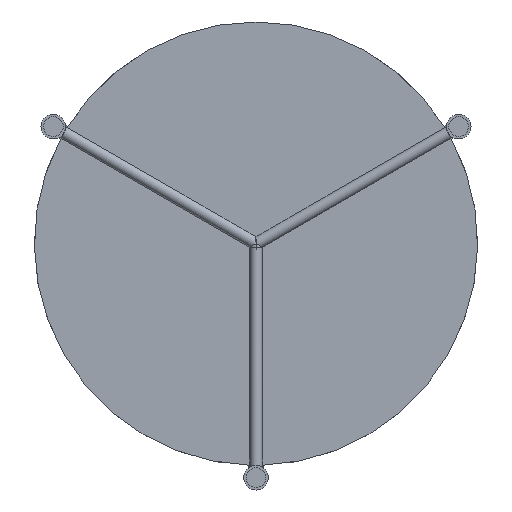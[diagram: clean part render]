
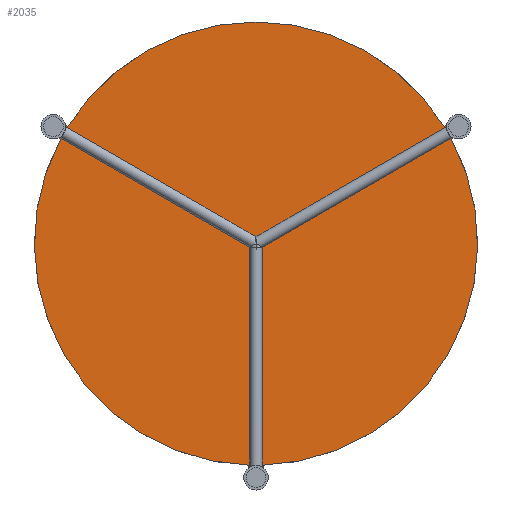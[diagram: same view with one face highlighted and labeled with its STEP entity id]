
A CAD part, front view. The second image highlights one B-rep face of the part: STEP entity #2035.
In plain terms, the highlighted planar face has unit normal (0, -1, 0).
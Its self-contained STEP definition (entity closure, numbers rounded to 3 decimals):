
#57 = CARTESIAN_POINT ( 'NONE',  ( -161.605, 499., 100.231 ) ) ;
#149 = AXIS2_PLACEMENT_3D ( 'NONE', #1711, #1729, #2428 ) ;
#231 = ORIENTED_EDGE ( 'NONE', *, *, #2535, .T. ) ;
#240 = EDGE_CURVE ( 'NONE', #2756, #3288, #2405, .T. ) ;
#283 = ORIENTED_EDGE ( 'NONE', *, *, #2395, .T. ) ;
#316 = DIRECTION ( 'NONE',  ( 0., 1., 0. ) ) ;
#334 = LINE ( 'NONE', #3843, #1323 ) ;
#434 = DIRECTION ( 'NONE',  ( 0., 0., -1. ) ) ;
#486 = ORIENTED_EDGE ( 'NONE', *, *, #595, .T. ) ;
#530 = CARTESIAN_POINT ( 'NONE',  ( 0., 499., 0. ) ) ;
#574 = DIRECTION ( 'NONE',  ( 0., 0., -1. ) ) ;
#583 = AXIS2_PLACEMENT_3D ( 'NONE', #4418, #1949, #3387 ) ;
#595 = EDGE_CURVE ( 'NONE', #2590, #4174, #4484, .T. ) ;
#603 = EDGE_CURVE ( 'NONE', #4360, #2590, #3989, .T. ) ;
#637 = DIRECTION ( 'NONE',  ( 0.866, 0., 0.5 ) ) ;
#649 = AXIS2_PLACEMENT_3D ( 'NONE', #3487, #2038, #574 ) ;
#676 = ORIENTED_EDGE ( 'NONE', *, *, #4235, .T. ) ;
#778 = CARTESIAN_POINT ( 'NONE',  ( 0., 499., 0. ) ) ;
#894 = VERTEX_POINT ( 'NONE', #2822 ) ;
#904 = DIRECTION ( 'NONE',  ( 0., -1., 0. ) ) ;
#926 = CARTESIAN_POINT ( 'NONE',  ( 167.605, 499., 89.839 ) ) ;
#959 = VERTEX_POINT ( 'NONE', #3746 ) ;
#992 = CARTESIAN_POINT ( 'NONE',  ( 152.798, 499., 95.146 ) ) ;
#1146 = AXIS2_PLACEMENT_3D ( 'NONE', #3599, #1485, #1439 ) ;
#1258 = ORIENTED_EDGE ( 'NONE', *, *, #4260, .T. ) ;
#1323 = VECTOR ( 'NONE', #3484, 1000. ) ;
#1358 = CARTESIAN_POINT ( 'NONE',  ( 0., 499., 0. ) ) ;
#1376 = DIRECTION ( 'NONE',  ( 0., 0., -1. ) ) ;
#1382 = CIRCLE ( 'NONE', #4128, 180. ) ;
#1439 = DIRECTION ( 'NONE',  ( 0., 0., -1. ) ) ;
#1443 = CARTESIAN_POINT ( 'NONE',  ( -154.677, 499., 96.231 ) ) ;
#1480 = CARTESIAN_POINT ( 'NONE',  ( -6., 499., -190.07 ) ) ;
#1484 = EDGE_CURVE ( 'NONE', #3388, #894, #2911, .T. ) ;
#1485 = DIRECTION ( 'NONE',  ( 0., -1., 0. ) ) ;
#1505 = ORIENTED_EDGE ( 'NONE', *, *, #240, .T. ) ;
#1514 = DIRECTION ( 'NONE',  ( 0.866, 0., -0.5 ) ) ;
#1624 = AXIS2_PLACEMENT_3D ( 'NONE', #778, #3984, #434 ) ;
#1694 = ORIENTED_EDGE ( 'NONE', *, *, #2023, .T. ) ;
#1696 = CIRCLE ( 'NONE', #1624, 180. ) ;
#1711 = CARTESIAN_POINT ( 'NONE',  ( 164.605, 499., 95.035 ) ) ;
#1729 = DIRECTION ( 'NONE',  ( 0., 1., 0. ) ) ;
#1730 = VERTEX_POINT ( 'NONE', #4130 ) ;
#1900 = VECTOR ( 'NONE', #2481, 1000. ) ;
#1949 = DIRECTION ( 'NONE',  ( 0., 1., 0. ) ) ;
#2023 = EDGE_CURVE ( 'NONE', #2397, #3598, #4277, .T. ) ;
#2035 = ADVANCED_FACE ( 'NONE', ( #2086 ), #4526, .T. ) ;
#2038 = DIRECTION ( 'NONE',  ( 0., -1., 0. ) ) ;
#2040 = DIRECTION ( 'NONE',  ( 0., 0., -1. ) ) ;
#2086 = FACE_OUTER_BOUND ( 'NONE', #3602, .T. ) ;
#2368 = EDGE_CURVE ( 'NONE', #1730, #2397, #2872, .T. ) ;
#2395 = EDGE_CURVE ( 'NONE', #4174, #959, #1382, .T. ) ;
#2397 = VERTEX_POINT ( 'NONE', #2610 ) ;
#2405 = LINE ( 'NONE', #926, #3827 ) ;
#2428 = DIRECTION ( 'NONE',  ( 0., 0., -1. ) ) ;
#2429 = ORIENTED_EDGE ( 'NONE', *, *, #2687, .T. ) ;
#2434 = VECTOR ( 'NONE', #3886, 1000. ) ;
#2481 = DIRECTION ( 'NONE',  ( -0.866, 0., -0.5 ) ) ;
#2484 = LINE ( 'NONE', #57, #4065 ) ;
#2503 = CARTESIAN_POINT ( 'NONE',  ( -160.677, 499., 85.839 ) ) ;
#2535 = EDGE_CURVE ( 'NONE', #3948, #2756, #1696, .T. ) ;
#2578 = CIRCLE ( 'NONE', #649, 180. ) ;
#2579 = ORIENTED_EDGE ( 'NONE', *, *, #2914, .T. ) ;
#2590 = VERTEX_POINT ( 'NONE', #992 ) ;
#2610 = CARTESIAN_POINT ( 'NONE',  ( -6., 499., -182.07 ) ) ;
#2687 = EDGE_CURVE ( 'NONE', #2889, #3388, #3411, .T. ) ;
#2706 = ORIENTED_EDGE ( 'NONE', *, *, #1484, .T. ) ;
#2756 = VERTEX_POINT ( 'NONE', #3281 ) ;
#2822 = CARTESIAN_POINT ( 'NONE',  ( -158.798, 499., 84.754 ) ) ;
#2825 = EDGE_CURVE ( 'NONE', #959, #2889, #2484, .T. ) ;
#2856 = CARTESIAN_POINT ( 'NONE',  ( 152.798, 499., 95.146 ) ) ;
#2872 = LINE ( 'NONE', #1480, #2434 ) ;
#2889 = VERTEX_POINT ( 'NONE', #1443 ) ;
#2911 = LINE ( 'NONE', #4000, #3623 ) ;
#2914 = EDGE_CURVE ( 'NONE', #894, #1730, #2578, .T. ) ;
#3067 = ORIENTED_EDGE ( 'NONE', *, *, #2825, .T. ) ;
#3281 = CARTESIAN_POINT ( 'NONE',  ( 158.798, 499., 84.754 ) ) ;
#3288 = VERTEX_POINT ( 'NONE', #3763 ) ;
#3373 = CARTESIAN_POINT ( 'NONE',  ( 6., 499., -182.07 ) ) ;
#3387 = DIRECTION ( 'NONE',  ( 0., 0., -1. ) ) ;
#3388 = VERTEX_POINT ( 'NONE', #2503 ) ;
#3411 = CIRCLE ( 'NONE', #583, 10. ) ;
#3484 = DIRECTION ( 'NONE',  ( 0., 0., 1. ) ) ;
#3487 = CARTESIAN_POINT ( 'NONE',  ( 0., 499., 0. ) ) ;
#3581 = DIRECTION ( 'NONE',  ( -0.866, 0., 0.5 ) ) ;
#3598 = VERTEX_POINT ( 'NONE', #3373 ) ;
#3599 = CARTESIAN_POINT ( 'NONE',  ( 0., 499., 0. ) ) ;
#3602 = EDGE_LOOP ( 'NONE', ( #3067, #2429, #2706, #2579, #4560, #1694, #676, #231, #1505, #1258, #4521, #486, #283 ) ) ;
#3623 = VECTOR ( 'NONE', #1514, 1000. ) ;
#3746 = CARTESIAN_POINT ( 'NONE',  ( -152.798, 499., 95.146 ) ) ;
#3763 = CARTESIAN_POINT ( 'NONE',  ( 160.677, 499., 85.839 ) ) ;
#3800 = CARTESIAN_POINT ( 'NONE',  ( 0., 499., 180. ) ) ;
#3827 = VECTOR ( 'NONE', #637, 1000. ) ;
#3843 = CARTESIAN_POINT ( 'NONE',  ( 6., 499., -179.9 ) ) ;
#3886 = DIRECTION ( 'NONE',  ( 0., 0., -1. ) ) ;
#3910 = AXIS2_PLACEMENT_3D ( 'NONE', #4483, #316, #2040 ) ;
#3920 = CIRCLE ( 'NONE', #149, 10. ) ;
#3948 = VERTEX_POINT ( 'NONE', #3959 ) ;
#3959 = CARTESIAN_POINT ( 'NONE',  ( 6., 499., -179.9 ) ) ;
#3984 = DIRECTION ( 'NONE',  ( 0., -1., 0. ) ) ;
#3989 = LINE ( 'NONE', #2856, #1900 ) ;
#4000 = CARTESIAN_POINT ( 'NONE',  ( -158.798, 499., 84.754 ) ) ;
#4065 = VECTOR ( 'NONE', #3581, 1000. ) ;
#4128 = AXIS2_PLACEMENT_3D ( 'NONE', #530, #904, #4343 ) ;
#4130 = CARTESIAN_POINT ( 'NONE',  ( -6., 499., -179.9 ) ) ;
#4174 = VERTEX_POINT ( 'NONE', #3800 ) ;
#4235 = EDGE_CURVE ( 'NONE', #3598, #3948, #334, .T. ) ;
#4260 = EDGE_CURVE ( 'NONE', #3288, #4360, #3920, .T. ) ;
#4275 = CARTESIAN_POINT ( 'NONE',  ( 154.677, 499., 96.231 ) ) ;
#4277 = CIRCLE ( 'NONE', #3910, 10. ) ;
#4343 = DIRECTION ( 'NONE',  ( 0., 0., -1. ) ) ;
#4349 = AXIS2_PLACEMENT_3D ( 'NONE', #1358, #4545, #1376 ) ;
#4360 = VERTEX_POINT ( 'NONE', #4275 ) ;
#4418 = CARTESIAN_POINT ( 'NONE',  ( -164.605, 499., 95.035 ) ) ;
#4483 = CARTESIAN_POINT ( 'NONE',  ( 0., 499., -190.07 ) ) ;
#4484 = CIRCLE ( 'NONE', #1146, 180. ) ;
#4521 = ORIENTED_EDGE ( 'NONE', *, *, #603, .T. ) ;
#4526 = PLANE ( 'NONE',  #4349 ) ;
#4545 = DIRECTION ( 'NONE',  ( 0., -1., 0. ) ) ;
#4560 = ORIENTED_EDGE ( 'NONE', *, *, #2368, .T. ) ;
